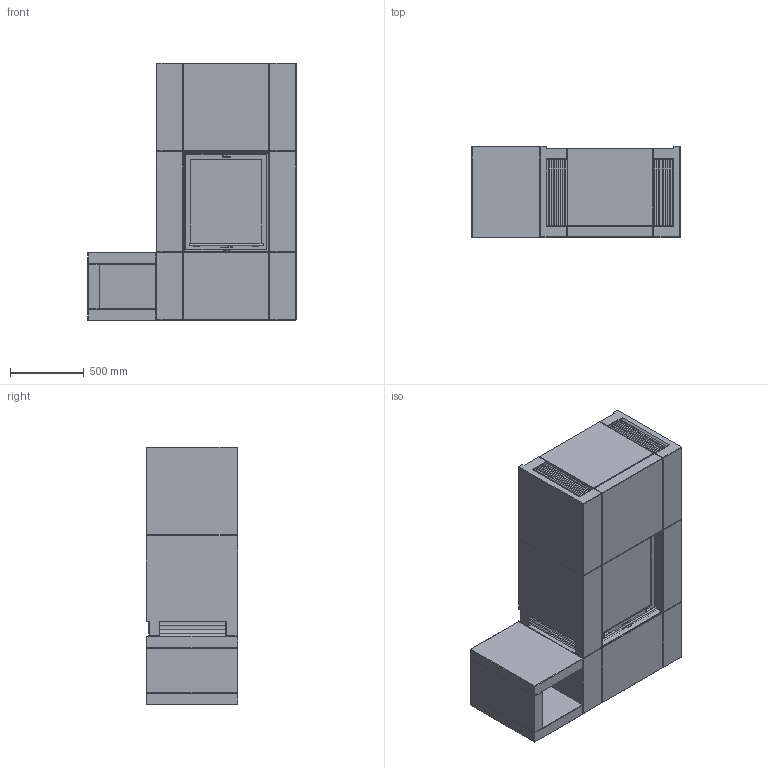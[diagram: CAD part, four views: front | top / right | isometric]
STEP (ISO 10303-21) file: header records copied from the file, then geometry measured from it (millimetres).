
FILE_DESCRIPTION( ( 'Unknown' ), '1' );
FILE_NAME( 'C:/Documents and Settings/hapierrea/Application Data/Unigraphics Solutions/Solid Edge/Insight/insight/Insight/interior models/C21C p Wood Storage L Assembly.stp', '2010', ( 'Unknown' ), ( 'NIBE AB' ), 'PSStep 11.0', 'Solid Edge', ' ' );
FILE_SCHEMA( ( 'AUTOMOTIVE_DESIGN { 1 0 10303 214 1 1 1 1 }' ) );
Length unit declared in the file: millimetre
Products named in the file (27): Assem1; Grills C21; Front set C21C; Insert i20; Firebox insulation i20; Door i20; Door frame i20; Glass i20; Concrete set C21-oa0; Grate i10 i20; Fire i20
Bounding box: 1416 x 620 x 1752.01 mm (x, y, z)
Surface area: 49571444 mm2
Topology: 52 solids, 52 shells, 3256 faces, 8460 edges, 5562 vertices
Faces by surface type: plane 2384, extrusion 584, cylinder 264, cone 20, sphere 4
Full cylindrical faces by diameter (mm): 10 x32, 12 x2, 100 x6, 200 x6
Entity records: 69904 total; most frequent: CARTESIAN_POINT 18462, ORIENTED_EDGE 8408, DIRECTION 6529, EDGE_CURVE 4204, VERTEX_POINT 2780, VECTOR 2777, LINE 2485, AXIS2_PLACEMENT_3D 1876
